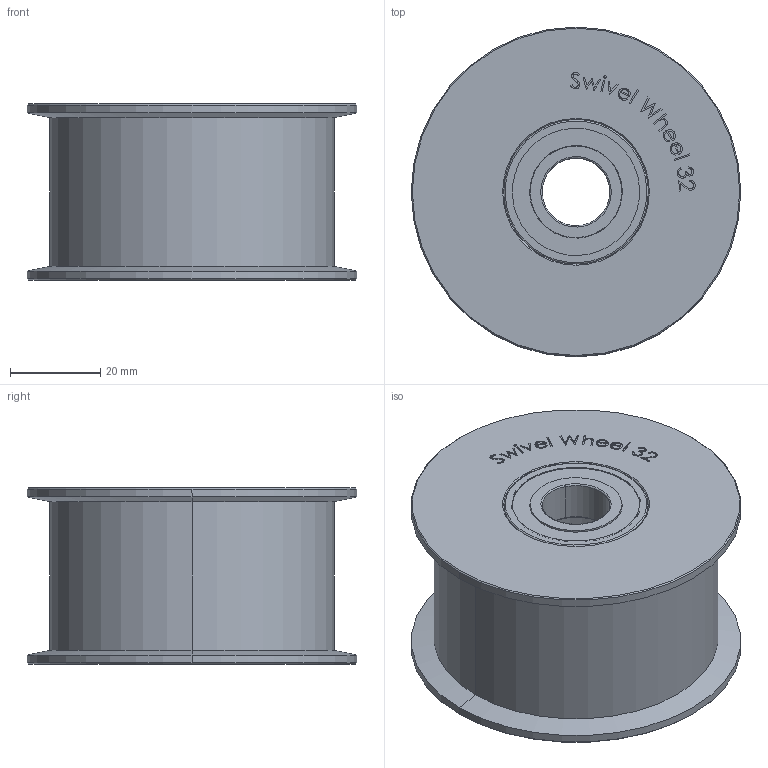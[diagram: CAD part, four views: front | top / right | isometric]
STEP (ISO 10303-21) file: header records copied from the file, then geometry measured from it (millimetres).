
FILE_DESCRIPTION (( 'STEP AP214' ), '1' );
FILE_NAME ('3.2018 Taittopyörä hammashihnalle 32.STEP', '2025-09-23T07:50:19', ( '' ), ( '' ), 'SwSTEP 2.0', 'SolidWorks 2025', '' );
FILE_SCHEMA (( 'AUTOMOTIVE_DESIGN' ));
Length unit declared in the file: millimetre
Products named in the file (1): 3.2018 Taittopyörä hammashihnalle 32
Bounding box: 73 x 73 x 39 mm (x, y, z)
Volume: 106392.2 mm3; surface area: 30761.7 mm2
Topology: 23 solids, 23 shells, 330 faces, 831 edges, 540 vertices
Faces by surface type: plane 112, bspline 78, cylinder 56, sphere 36, torus 36, cone 12
Entity records: 16608 total; most frequent: CARTESIAN_POINT 5668, ORIENTED_EDGE 1482, DIRECTION 1311, EDGE_CURVE 741, VERTEX_POINT 486, AXIS2_PLACEMENT_3D 473, EDGE_LOOP 369, LINE 365
